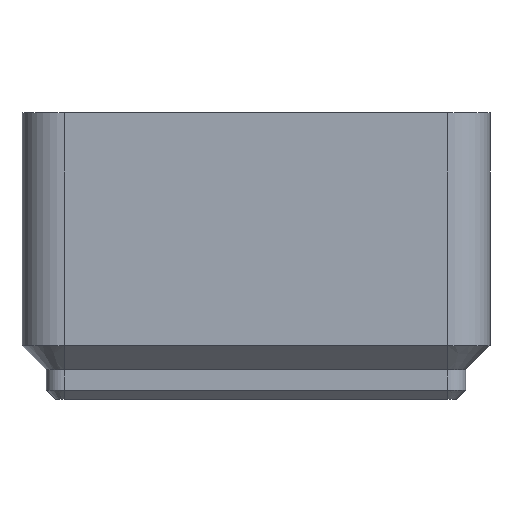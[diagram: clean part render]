
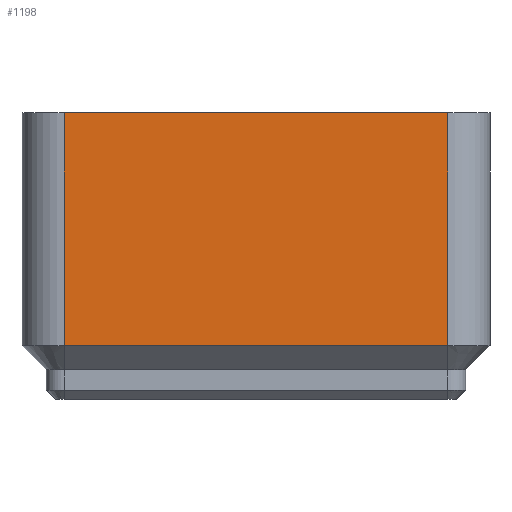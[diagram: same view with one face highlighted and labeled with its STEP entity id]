
A CAD part, left-side view. The second image highlights one B-rep face of the part: STEP entity #1198.
In plain terms, the highlighted planar face has unit normal (-1, 0, 0).
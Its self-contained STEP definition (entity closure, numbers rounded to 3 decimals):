
#416 = PLANE('',#417);
#417 = AXIS2_PLACEMENT_3D('',#418,#419,#420);
#418 = CARTESIAN_POINT('',(-20.75,0.,4.75));
#419 = DIRECTION('',(-0.707,0.,-0.707));
#420 = DIRECTION('',(0.,-1.,-0.));
#793 = VERTEX_POINT('',#794);
#794 = CARTESIAN_POINT('',(-20.75,-17.,4.75));
#812 = EDGE_CURVE('',#793,#813,#815,.T.);
#813 = VERTEX_POINT('',#814);
#814 = CARTESIAN_POINT('',(-20.75,17.,4.75));
#815 = SURFACE_CURVE('',#816,(#820,#827),.PCURVE_S1.);
#816 = LINE('',#817,#818);
#817 = CARTESIAN_POINT('',(-20.75,0.,4.75));
#818 = VECTOR('',#819,1.);
#819 = DIRECTION('',(0.,1.,0.));
#820 = PCURVE('',#416,#821);
#821 = DEFINITIONAL_REPRESENTATION('',(#822),#826);
#822 = LINE('',#823,#824);
#823 = CARTESIAN_POINT('',(0.,0.));
#824 = VECTOR('',#825,1.);
#825 = DIRECTION('',(-1.,0.));
#826 = ( GEOMETRIC_REPRESENTATION_CONTEXT(2) 
PARAMETRIC_REPRESENTATION_CONTEXT() REPRESENTATION_CONTEXT('2D SPACE',''
  ) );
#827 = PCURVE('',#828,#833);
#828 = PLANE('',#829);
#829 = AXIS2_PLACEMENT_3D('',#830,#831,#832);
#830 = CARTESIAN_POINT('',(-20.75,-17.,4.75));
#831 = DIRECTION('',(-1.,0.,0.));
#832 = DIRECTION('',(0.,1.,0.));
#833 = DEFINITIONAL_REPRESENTATION('',(#834),#838);
#834 = LINE('',#835,#836);
#835 = CARTESIAN_POINT('',(17.,0.));
#836 = VECTOR('',#837,1.);
#837 = DIRECTION('',(1.,0.));
#838 = ( GEOMETRIC_REPRESENTATION_CONTEXT(2) 
PARAMETRIC_REPRESENTATION_CONTEXT() REPRESENTATION_CONTEXT('2D SPACE',''
  ) );
#1187 = CYLINDRICAL_SURFACE('',#1188,3.75);
#1188 = AXIS2_PLACEMENT_3D('',#1189,#1190,#1191);
#1189 = CARTESIAN_POINT('',(-17.,-17.,4.75));
#1190 = DIRECTION('',(0.,0.,-1.));
#1191 = DIRECTION('',(-1.,0.,0.));
#1198 = ADVANCED_FACE('',(#1199),#828,.T.);
#1199 = FACE_BOUND('',#1200,.T.);
#1200 = EDGE_LOOP('',(#1201,#1224,#1252,#1278));
#1201 = ORIENTED_EDGE('',*,*,#1202,.T.);
#1202 = EDGE_CURVE('',#793,#1203,#1205,.T.);
#1203 = VERTEX_POINT('',#1204);
#1204 = CARTESIAN_POINT('',(-20.75,-17.,25.4));
#1205 = SURFACE_CURVE('',#1206,(#1210,#1217),.PCURVE_S1.);
#1206 = LINE('',#1207,#1208);
#1207 = CARTESIAN_POINT('',(-20.75,-17.,4.75));
#1208 = VECTOR('',#1209,1.);
#1209 = DIRECTION('',(0.,0.,1.));
#1210 = PCURVE('',#828,#1211);
#1211 = DEFINITIONAL_REPRESENTATION('',(#1212),#1216);
#1212 = LINE('',#1213,#1214);
#1213 = CARTESIAN_POINT('',(0.,0.));
#1214 = VECTOR('',#1215,1.);
#1215 = DIRECTION('',(0.,-1.));
#1216 = ( GEOMETRIC_REPRESENTATION_CONTEXT(2) 
PARAMETRIC_REPRESENTATION_CONTEXT() REPRESENTATION_CONTEXT('2D SPACE',''
  ) );
#1217 = PCURVE('',#1187,#1218);
#1218 = DEFINITIONAL_REPRESENTATION('',(#1219),#1223);
#1219 = LINE('',#1220,#1221);
#1220 = CARTESIAN_POINT('',(6.283,0.));
#1221 = VECTOR('',#1222,1.);
#1222 = DIRECTION('',(0.,-1.));
#1223 = ( GEOMETRIC_REPRESENTATION_CONTEXT(2) 
PARAMETRIC_REPRESENTATION_CONTEXT() REPRESENTATION_CONTEXT('2D SPACE',''
  ) );
#1224 = ORIENTED_EDGE('',*,*,#1225,.T.);
#1225 = EDGE_CURVE('',#1203,#1226,#1228,.T.);
#1226 = VERTEX_POINT('',#1227);
#1227 = CARTESIAN_POINT('',(-20.75,17.,25.4));
#1228 = SURFACE_CURVE('',#1229,(#1233,#1240),.PCURVE_S1.);
#1229 = LINE('',#1230,#1231);
#1230 = CARTESIAN_POINT('',(-20.75,0.,25.4));
#1231 = VECTOR('',#1232,1.);
#1232 = DIRECTION('',(0.,1.,0.));
#1233 = PCURVE('',#828,#1234);
#1234 = DEFINITIONAL_REPRESENTATION('',(#1235),#1239);
#1235 = LINE('',#1236,#1237);
#1236 = CARTESIAN_POINT('',(17.,-20.65));
#1237 = VECTOR('',#1238,1.);
#1238 = DIRECTION('',(1.,0.));
#1239 = ( GEOMETRIC_REPRESENTATION_CONTEXT(2) 
PARAMETRIC_REPRESENTATION_CONTEXT() REPRESENTATION_CONTEXT('2D SPACE',''
  ) );
#1240 = PCURVE('',#1241,#1246);
#1241 = PLANE('',#1242);
#1242 = AXIS2_PLACEMENT_3D('',#1243,#1244,#1245);
#1243 = CARTESIAN_POINT('',(0.,0.,25.4)
  );
#1244 = DIRECTION('',(0.,0.,1.));
#1245 = DIRECTION('',(1.,0.,0.));
#1246 = DEFINITIONAL_REPRESENTATION('',(#1247),#1251);
#1247 = LINE('',#1248,#1249);
#1248 = CARTESIAN_POINT('',(-20.75,0.));
#1249 = VECTOR('',#1250,1.);
#1250 = DIRECTION('',(0.,1.));
#1251 = ( GEOMETRIC_REPRESENTATION_CONTEXT(2) 
PARAMETRIC_REPRESENTATION_CONTEXT() REPRESENTATION_CONTEXT('2D SPACE',''
  ) );
#1252 = ORIENTED_EDGE('',*,*,#1253,.F.);
#1253 = EDGE_CURVE('',#813,#1226,#1254,.T.);
#1254 = SURFACE_CURVE('',#1255,(#1259,#1266),.PCURVE_S1.);
#1255 = LINE('',#1256,#1257);
#1256 = CARTESIAN_POINT('',(-20.75,17.,4.75));
#1257 = VECTOR('',#1258,1.);
#1258 = DIRECTION('',(0.,0.,1.));
#1259 = PCURVE('',#828,#1260);
#1260 = DEFINITIONAL_REPRESENTATION('',(#1261),#1265);
#1261 = LINE('',#1262,#1263);
#1262 = CARTESIAN_POINT('',(34.,0.));
#1263 = VECTOR('',#1264,1.);
#1264 = DIRECTION('',(0.,-1.));
#1265 = ( GEOMETRIC_REPRESENTATION_CONTEXT(2) 
PARAMETRIC_REPRESENTATION_CONTEXT() REPRESENTATION_CONTEXT('2D SPACE',''
  ) );
#1266 = PCURVE('',#1267,#1272);
#1267 = CYLINDRICAL_SURFACE('',#1268,3.75);
#1268 = AXIS2_PLACEMENT_3D('',#1269,#1270,#1271);
#1269 = CARTESIAN_POINT('',(-17.,17.,4.75));
#1270 = DIRECTION('',(0.,0.,-1.));
#1271 = DIRECTION('',(-1.,0.,0.));
#1272 = DEFINITIONAL_REPRESENTATION('',(#1273),#1277);
#1273 = LINE('',#1274,#1275);
#1274 = CARTESIAN_POINT('',(0.,0.));
#1275 = VECTOR('',#1276,1.);
#1276 = DIRECTION('',(0.,-1.));
#1277 = ( GEOMETRIC_REPRESENTATION_CONTEXT(2) 
PARAMETRIC_REPRESENTATION_CONTEXT() REPRESENTATION_CONTEXT('2D SPACE',''
  ) );
#1278 = ORIENTED_EDGE('',*,*,#812,.F.);
